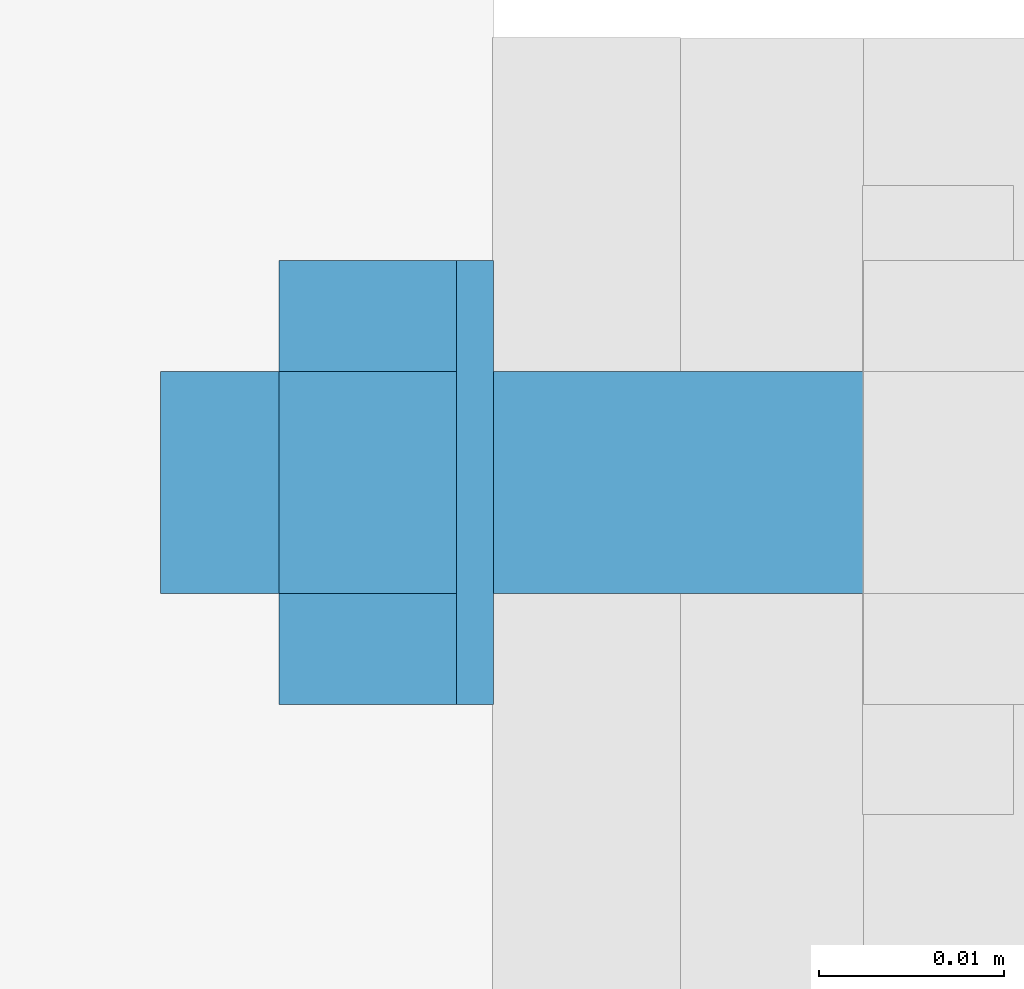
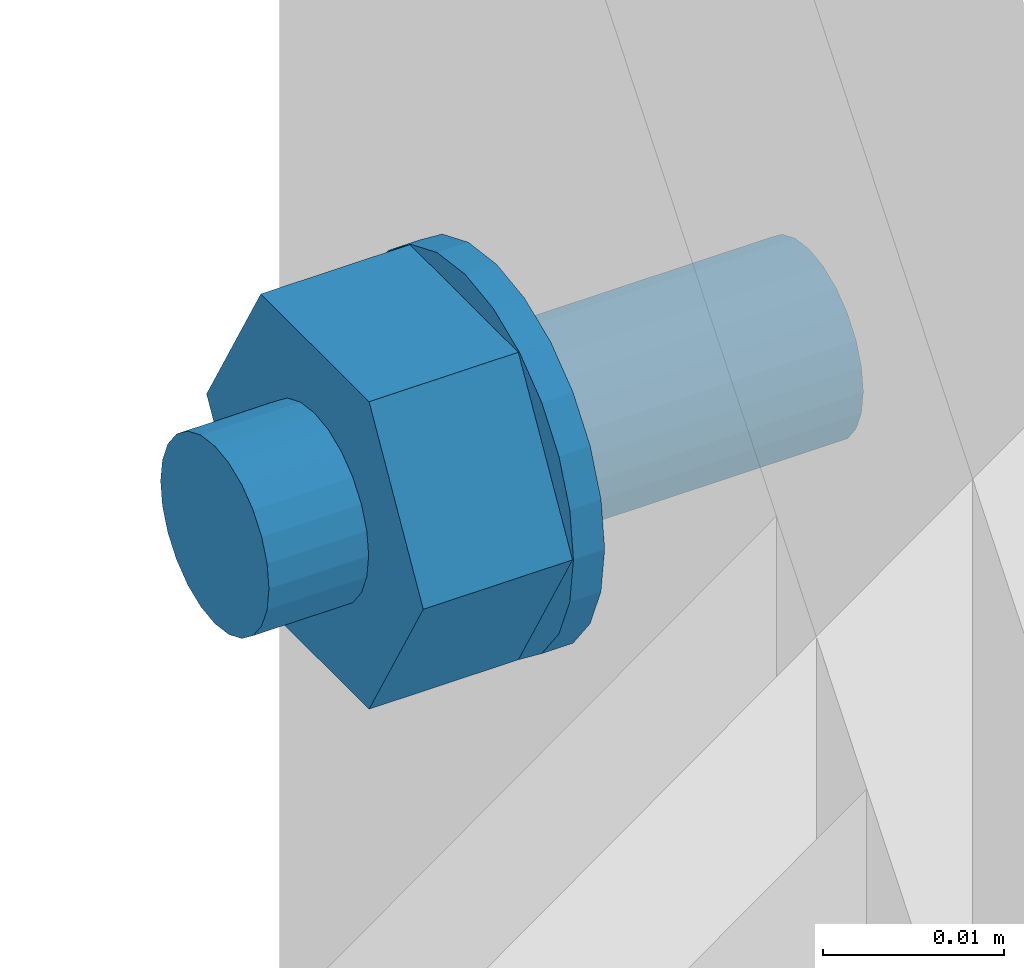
# One storey, part 62 of 66: 3 mechanical fasteners.
"""IFC4 building model written with IfcOpenShell, lengths in metres."""

import ifcopenshell
import ifcopenshell.guid

model = None  # the IFC model being written
_history = None  # IfcOwnerHistory: only IFC2X3 demands one
_inside = {}  # id of a spatial element -> (the spatial element, [elements in it])
_under = {}  # id of a project, library or spatial element -> (it, [spatial elements below it])
_declared = {}  # id of a project -> (the project, [libraries it declares])
_typed = {}  # id of a type object -> (the type object, [elements of that type])
_made_of = {}  # id of a material, layer set ... -> (it, [elements and type objects made of it])


def new_model(schema):
    """Start an empty IFC model of exactly this schema.

    Asked for "IFC4X3", IfcOpenShell would pick the latest addendum, in which some entities
    have other attributes; the version numbers below select the first issue.
    IFC2X3 requires an IfcOwnerHistory on every rooted entity: one is made here for all.
    """
    global model, _history
    if schema == "IFC4X3":
        model = ifcopenshell.file(schema_version=(4, 3, 0, 0))
    else:
        model = ifcopenshell.file(schema=schema)
    _inside.clear()
    _under.clear()
    _declared.clear()
    _typed.clear()
    _made_of.clear()
    _history = None
    if model.schema == "IFC2X3":
        org = make("IfcOrganization", Name="unknown")
        user = make(
            "IfcPersonAndOrganization",
            ThePerson=make("IfcPerson", FamilyName="unknown"),
            TheOrganization=org,
        )
        app = make(
            "IfcApplication",
            ApplicationDeveloper=org,
            Version="unknown",
            ApplicationFullName="unknown",
            ApplicationIdentifier="unknown",
        )
        _history = make(
            "IfcOwnerHistory",
            OwningUser=user,
            OwningApplication=app,
            ChangeAction="ADDED",
            CreationDate=0,
        )
    return model


def make(cls, **values):
    """One entity of the class cls with the attributes given. An attribute that is None is left unset."""
    return model.create_entity(
        cls, **{name: value for name, value in values.items() if value is not None}
    )


def rooted(cls, **values):
    """An entity with a GlobalId (a new one), such as an element, a storey or a relation."""
    return make(cls, GlobalId=ifcopenshell.guid.new(), OwnerHistory=_history, **values)


def si_unit(unit_type, name, prefix=None):
    """IfcSIUnit, for example si_unit("LENGTHUNIT", "METRE", prefix="MILLI")."""
    return make("IfcSIUnit", UnitType=unit_type, Prefix=prefix, Name=name)


def assignment(units):
    """IfcUnitAssignment: the units of a project."""
    return None if units is None else make("IfcUnitAssignment", Units=units)


def point(xyz):
    """IfcCartesianPoint."""
    return None if xyz is None else make("IfcCartesianPoint", Coordinates=xyz)


def direction(xyz):
    """IfcDirection."""
    return None if xyz is None else make("IfcDirection", DirectionRatios=xyz)


def frame(location, z_axis=None, x_axis=None):
    """IfcAxis2Placement3D, a coordinate frame: its origin and axes. An axis left out is left unset."""
    return make(
        "IfcAxis2Placement3D",
        Location=point(location),
        Axis=direction(z_axis),
        RefDirection=direction(x_axis),
    )


def origin_with_axes():
    """The frame at (0, 0, 0) with the z axis (0, 0, 1) and the x axis (1, 0, 0) written out."""
    return frame((0.0, 0.0, 0.0), z_axis=(0.0, 0.0, 1.0), x_axis=(1.0, 0.0, 0.0))


def place(relative_to, where):
    """IfcLocalPlacement: puts the frame where relative to a parent placement (None: the world)."""
    return make(
        "IfcLocalPlacement", PlacementRelTo=relative_to, RelativePlacement=where
    )


def context(
    kind, dimensions, precision=None, world=None, true_north=None, identifier=None
):
    """IfcGeometricRepresentationContext, for example the 3D "Model" context."""
    return make(
        "IfcGeometricRepresentationContext",
        ContextIdentifier=identifier,
        ContextType=kind,
        CoordinateSpaceDimension=dimensions,
        Precision=precision,
        WorldCoordinateSystem=world,
        TrueNorth=true_north,
    )


def project(units=None, contexts=None):
    """IfcProject with its units and contexts."""
    return rooted(
        "IfcProject",
        Name="project",
        RepresentationContexts=contexts,
        UnitsInContext=assignment(units),
    )


def spatial(cls, under=None, at=None, **own):
    """A site, building, storey or space (cls), placed at a placement, below another one or the project."""
    s = rooted(cls, ObjectPlacement=at, **own)
    if under is not None:
        _under.setdefault(under.id(), (under, []))[1].append(s)
    return s


def polyline(points):
    """IfcPolyline through the points."""
    return make("IfcPolyline", Points=[point(p) for p in points])


def outline(outer, holes=None, kind="AREA"):
    """IfcArbitraryClosedProfileDef: a profile drawn as a closed curve; with holes, ...WithVoids."""
    if holes is None:
        return make("IfcArbitraryClosedProfileDef", ProfileType=kind, OuterCurve=outer)
    return make(
        "IfcArbitraryProfileDefWithVoids",
        ProfileType=kind,
        OuterCurve=outer,
        InnerCurves=holes,
    )


def extrude(swept, where, along, depth):
    """IfcExtrudedAreaSolid: the profile swept, set in the frame where, extruded along a direction by depth."""
    return make(
        "IfcExtrudedAreaSolid",
        SweptArea=swept,
        Position=where,
        ExtrudedDirection=direction(along),
        Depth=depth,
    )


def shape(context_of_items, identifier, shape_type, items):
    """IfcShapeRepresentation: the items that make up one representation, for example the "Body"."""
    return make(
        "IfcShapeRepresentation",
        ContextOfItems=context_of_items,
        RepresentationIdentifier=identifier,
        RepresentationType=shape_type,
        Items=items,
    )


def made_of(thing, what):
    """Note that an element or type object is made of a material, layer set ...; save() writes the relation."""
    if what is not None:
        _made_of.setdefault(what.id(), (what, []))[1].append(thing)
    return thing


def type_object(cls, material=None, **own):
    """A type object (cls), such as IfcWallType, which elements share."""
    return made_of(rooted(cls, **own), material)


def element(
    cls,
    number,
    at=None,
    inside=None,
    cuts=None,
    type_object=None,
    material=None,
    context=None,
    identifier="Body",
    shape_type=None,
    held_by="IfcProductDefinitionShape",
    body=None,
    shapes=None,
    **own,
):
    """One element of the class cls, such as IfcWall. Its Tag is "e" and its number.

    at: its placement. inside: the storey or other place that contains it. cuts: it is an
    opening in that element (IfcRelVoidsElement). A single representation is given by context,
    identifier, shape_type and body (its items); several are given by shapes. held_by: the class
    of the entity that holds the representations. save() writes the other relations.
    """
    e = rooted(cls, Tag="e%d" % number, ObjectPlacement=at, **own)
    if body is not None:
        shapes = [shape(context, identifier, shape_type, body)]
    if shapes is not None:
        e.Representation = make(held_by, Representations=shapes)
    if inside is not None:
        _inside.setdefault(inside.id(), (inside, []))[1].append(e)
    if cuts is not None:
        rooted(
            "IfcRelVoidsElement", RelatingBuildingElement=cuts, RelatedOpeningElement=e
        )
    if type_object is not None:
        _typed.setdefault(type_object.id(), (type_object, []))[1].append(e)
    return made_of(e, material)


def aggregate(whole, parts):
    """IfcRelAggregates: a whole, such as a stair, and the parts it consists of."""
    return rooted("IfcRelAggregates", RelatingObject=whole, RelatedObjects=parts)


def save(model, path):
    """Write the relations noted so far, then the file.

    IfcRelAggregates (storeys below a building ...), IfcRelContainedInSpatialStructure (elements
    in a storey), IfcRelDefinesByType, IfcRelAssociatesMaterial and IfcRelDeclares: one each for
    every whole, place, type object, material and project.
    """
    for whole, parts in _under.values():
        aggregate(whole, parts)
    for where, things in _inside.values():
        rooted(
            "IfcRelContainedInSpatialStructure",
            RelatedElements=things,
            RelatingStructure=where,
        )
    for kind, things in _typed.values():
        rooted("IfcRelDefinesByType", RelatedObjects=things, RelatingType=kind)
    for what, things in _made_of.values():
        rooted("IfcRelAssociatesMaterial", RelatedObjects=things, RelatingMaterial=what)
    for by, libraries in _declared.values():
        rooted("IfcRelDeclares", RelatingContext=by, RelatedDefinitions=libraries)
    model.write(path)


model = new_model("IFC4")

# Units and contexts
model_context = context("Model", 3, precision=1e-05, world=origin_with_axes())
ifc_project = project(units=[si_unit("LENGTHUNIT", "METRE"), si_unit("AREAUNIT", "SQUARE_METRE"), si_unit("VOLUMEUNIT", "CUBIC_METRE"), si_unit("MASSUNIT", "GRAM", prefix="KILO"), si_unit("TIMEUNIT", "SECOND"), si_unit("PLANEANGLEUNIT", "RADIAN"), si_unit("SOLIDANGLEUNIT", "STERADIAN"), si_unit("THERMODYNAMICTEMPERATUREUNIT", "DEGREE_CELSIUS")], contexts=[model_context])

# Site, building, storey
placement_1 = place(None, origin_with_axes())
site = spatial("IfcSite", under=ifc_project, at=placement_1, Name="Italia", CompositionType="ELEMENT")
building = spatial("IfcBuilding", under=site, at=placement_1, Name="Uffici", CompositionType="ELEMENT")
storey_placement = place(None, frame((0.0, 0.0, 3.299999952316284), z_axis=(0.0, 0.0, 1.0), x_axis=(1.0, 0.0, 0.0)))
storey = spatial("IfcBuildingStorey", under=building, at=storey_placement, Name="Storey 1", CompositionType="ELEMENT", Elevation=3.299999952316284)

# Mechanical fasteners
mechanical_fastener_type_1 = type_object("IfcMechanicalFastenerType", Name="Collegamento 0114_0115", PredefinedType="BOLT")
placement_2 = place(placement_1, origin_with_axes())
mechanical_fastener_1_placement = place(placement_2, origin_with_axes())
element("IfcMechanicalFastener", 1, at=mechanical_fastener_1_placement, inside=storey, type_object=mechanical_fastener_type_1, Name="Collegamento 0114_0115", NominalDiameter=0.012, context=model_context, shape_type="SweptSolid", body=[
    extrude(outline(polyline([(0.0, 0.0), (-0.000204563, -0.00155282), (-0.000803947, -0.00300002), (-0.00175762, -0.00424266), (-0.00300026, -0.00519609), (-0.00444698, -0.00579548), (-0.00600004, -0.00600004), (-0.0075531, -0.00579548), (-0.00899982, -0.00519609), (-0.0102425, -0.00424266), (-0.0111961, -0.00300002), (-0.0117955, -0.00155282), (-0.0120001, 0.0), (-0.0117955, 0.00155282), (-0.0111961, 0.00300002), (-0.0102425, 0.00424266), (-0.00899982, 0.00519609), (-0.0075531, 0.00579548), (-0.00600004, 0.00600004), (-0.00444698, 0.00579548), (-0.00300026, 0.00519609), (-0.00175762, 0.00424266), (-0.000803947, 0.00300002), (-0.000204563, 0.00155282), (0.0, 0.0)])), frame((9.557, 5.432, 3.231), z_axis=(1.0, 0.0, 0.0), x_axis=(0.0, 1.0, 0.0)), (0.0, 0.0, 1.0), 0.0380001),
])
mechanical_fastener_type_2 = type_object("IfcMechanicalFastenerType", Name="Collegamento 0114_0115", PredefinedType="BOLT")
mechanical_fastener_2_placement = place(placement_2, origin_with_axes())
element("IfcMechanicalFastener", 2, at=mechanical_fastener_2_placement, inside=storey, type_object=mechanical_fastener_type_2, Name="Collegamento 0114_0115", NominalDiameter=0.0119996, context=model_context, shape_type="SweptSolid", body=[
    extrude(outline(polyline([(0.0, 0.0), (-0.0119996, 0.0), (-0.0179996, 0.0103924), (-0.0119996, 0.0207846), (0.0, 0.0207846), (0.00600004, 0.0103924), (0.0, 0.0)])), frame((9.5634, 5.432, 3.22061), z_axis=(1.0, 0.0, 0.0), x_axis=(0.0, 1.0, 0.0)), (0.0, 0.0, 1.0), 0.00959969),
])
mechanical_fastener_type_3 = type_object("IfcMechanicalFastenerType", Name="Collegamento 0114_0115", PredefinedType="BOLT")
mechanical_fastener_3_placement = place(placement_2, origin_with_axes())
element("IfcMechanicalFastener", 3, at=mechanical_fastener_3_placement, inside=storey, type_object=mechanical_fastener_type_3, Name="Collegamento 0114_0115", NominalDiameter=0.024, context=model_context, shape_type="SweptSolid", body=[
    extrude(outline(polyline([(0.0, 0.0), (-0.000409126, -0.00310588), (-0.00160789, -0.00600004), (-0.00351477, -0.00848532), (-0.00600004, -0.0103922), (-0.00889444, -0.0115912), (-0.0120001, -0.0120001), (-0.0151057, -0.0115912), (-0.0180001, -0.0103922), (-0.0204854, -0.00848532), (-0.0223923, -0.00600004), (-0.023591, -0.00310588), (-0.0240002, 0.0), (-0.023591, 0.00310588), (-0.0223923, 0.00600004), (-0.0204854, 0.00848532), (-0.0180001, 0.0103922), (-0.0151057, 0.0115912), (-0.0120001, 0.0120001), (-0.00889444, 0.0115912), (-0.00600004, 0.0103922), (-0.00351477, 0.00848532), (-0.00160789, 0.00600004), (-0.000409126, 0.00310588), (0.0, 0.0)])), frame((9.573, 5.438, 3.231), z_axis=(1.0, 0.0, 0.0), x_axis=(0.0, 1.0, 0.0)), (0.0, 0.0, 1.0), 0.00199986),
])

save(model, "model.ifc")
